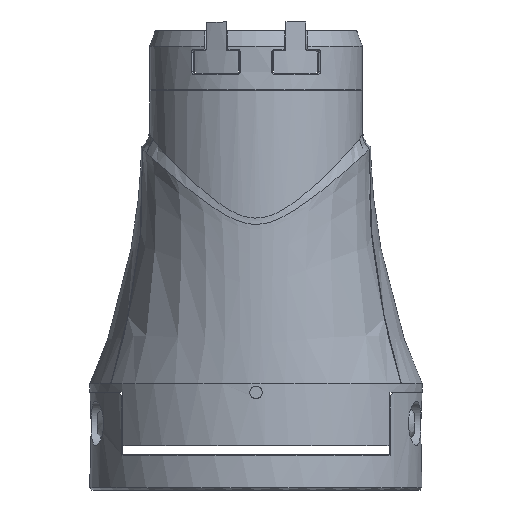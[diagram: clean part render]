
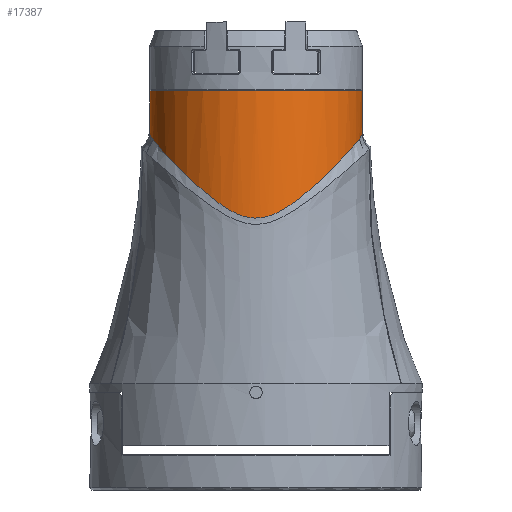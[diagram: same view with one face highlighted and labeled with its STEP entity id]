
A CAD part, left-side view. The second image highlights one B-rep face of the part: STEP entity #17387.
In plain terms, the highlighted cylindrical face has radius 24 mm (diameter 48 mm), a partial arc.
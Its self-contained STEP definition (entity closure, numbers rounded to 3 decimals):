
#174 = CARTESIAN_POINT ( 'NONE',  ( 0., 24., 13.5 ) ) ;
#429 = CARTESIAN_POINT ( 'NONE',  ( -28.632, 1.376, 37.473 ) ) ;
#477 = EDGE_CURVE ( 'NONE', #3084, #20369, #15056, .T. ) ;
#542 = CARTESIAN_POINT ( 'NONE',  ( -12.825, 21.712, 23.94 ) ) ;
#1203 = EDGE_LOOP ( 'NONE', ( #18993, #22518, #13670, #9516, #18954, #23243 ) ) ;
#1477 = CARTESIAN_POINT ( 'NONE',  ( -9.669, -24., 13.578 ) ) ;
#2222 = CARTESIAN_POINT ( 'NONE',  ( -24.399, 9.658, 35.509 ) ) ;
#2487 = CARTESIAN_POINT ( 'NONE',  ( -28.632, -1.376, 37.473 ) ) ;
#3084 = VERTEX_POINT ( 'NONE', #13719 ) ;
#3632 = AXIS2_PLACEMENT_3D ( 'NONE', #14227, #12294, #20196 ) ;
#4076 = DIRECTION ( 'NONE',  ( -1., 0., 0. ) ) ;
#4170 = CARTESIAN_POINT ( 'NONE',  ( -11.468, -22.857, 20.95 ) ) ;
#4439 = CARTESIAN_POINT ( 'NONE',  ( -27.874, 4.004, 37.175 ) ) ;
#4553 = CARTESIAN_POINT ( 'NONE',  ( -9.718, 23.998, 14.035 ) ) ;
#4847 = EDGE_CURVE ( 'NONE', #9471, #12257, #18947, .T. ) ;
#5745 = CARTESIAN_POINT ( 'NONE',  ( 0., 0., 13.5 ) ) ;
#6024 = EDGE_CURVE ( 'NONE', #20369, #22555, #17301, .T. ) ;
#6105 = CARTESIAN_POINT ( 'NONE',  ( -28.331, -2.717, 37.358 ) ) ;
#6232 = CARTESIAN_POINT ( 'NONE',  ( -10.639, 23.499, 18.585 ) ) ;
#6334 = CYLINDRICAL_SURFACE ( 'NONE', #3632, 24. ) ;
#6494 = CARTESIAN_POINT ( 'NONE',  ( -22.779, 11.631, 34.531 ) ) ;
#7150 = CARTESIAN_POINT ( 'NONE',  ( -9.665, -24., 13.539 ) ) ;
#8040 = CARTESIAN_POINT ( 'NONE',  ( -22.779, -11.631, 34.531 ) ) ;
#8174 = VECTOR ( 'NONE', #15207, 1000. ) ;
#8177 = CARTESIAN_POINT ( 'NONE',  ( -9.828, -23.972, 14.872 ) ) ;
#8303 = CARTESIAN_POINT ( 'NONE',  ( -10.639, -23.499, 18.585 ) ) ;
#8417 = CARTESIAN_POINT ( 'NONE',  ( -14.929, -19.799, 27.316 ) ) ;
#8832 = AXIS2_PLACEMENT_3D ( 'NONE', #5745, #4076, #11440 ) ;
#9471 = VERTEX_POINT ( 'NONE', #14661 ) ;
#9516 = ORIENTED_EDGE ( 'NONE', *, *, #12313, .T. ) ;
#10095 = CARTESIAN_POINT ( 'NONE',  ( -27.109, -5.641, 36.853 ) ) ;
#10226 = CARTESIAN_POINT ( 'NONE',  ( -28.738, 0., 37.513 ) ) ;
#10337 = CARTESIAN_POINT ( 'NONE',  ( -28.331, 2.717, 37.358 ) ) ;
#11440 = DIRECTION ( 'NONE',  ( 0., 0., -1. ) ) ;
#11918 = CARTESIAN_POINT ( 'NONE',  ( -17.899, 16.908, 30.719 ) ) ;
#12047 = CARTESIAN_POINT ( 'NONE',  ( -9.673, -24., 13.617 ) ) ;
#12257 = VERTEX_POINT ( 'NONE', #20760 ) ;
#12294 = DIRECTION ( 'NONE',  ( 1., 0., 0. ) ) ;
#12313 = EDGE_CURVE ( 'NONE', #19214, #22555, #18363, .T. ) ;
#13670 = ORIENTED_EDGE ( 'NONE', *, *, #21112, .T. ) ;
#13719 = CARTESIAN_POINT ( 'NONE',  ( -9.673, 24., 13.617 ) ) ;
#14227 = CARTESIAN_POINT ( 'NONE',  ( 14., 0., 13.5 ) ) ;
#14487 = CARTESIAN_POINT ( 'NONE',  ( -10.124, -23.833, 16.537 ) ) ;
#14661 = CARTESIAN_POINT ( 'NONE',  ( -9.673, -24., 13.617 ) ) ;
#14908 = CARTESIAN_POINT ( 'NONE',  ( -9.673, -24., 13.617 ) ) ;
#15056 = B_SPLINE_CURVE_WITH_KNOTS ( 'NONE', 3,
 ( #19622, #16208, #15333, #22037, #19492 ),
 .UNSPECIFIED., .F., .F.,
 ( 4, 1, 4 ),
 ( 0., 0.5, 1. ),
 .UNSPECIFIED. ) ;
#15207 = DIRECTION ( 'NONE',  ( 1., 0., 0. ) ) ;
#15333 = CARTESIAN_POINT ( 'NONE',  ( -9.667, 24., 13.556 ) ) ;
#15921 = CARTESIAN_POINT ( 'NONE',  ( -9.673, 24., 13.617 ) ) ;
#16055 = CARTESIAN_POINT ( 'NONE',  ( -25.948, -7.546, 36.322 ) ) ;
#16159 = FACE_OUTER_BOUND ( 'NONE', #1203, .T. ) ;
#16180 = CARTESIAN_POINT ( 'NONE',  ( -20.593, -14.101, 33.015 ) ) ;
#16208 = CARTESIAN_POINT ( 'NONE',  ( -9.671, 24., 13.596 ) ) ;
#16308 = CARTESIAN_POINT ( 'NONE',  ( -9.828, 23.972, 14.872 ) ) ;
#16557 = EDGE_CURVE ( 'NONE', #9471, #3084, #25279, .T. ) ;
#17171 = LINE ( 'NONE', #17427, #8174 ) ;
#17301 = LINE ( 'NONE', #23099, #17513 ) ;
#17387 = ADVANCED_FACE ( 'NONE', ( #16159 ), #6334, .T. ) ;
#17427 = CARTESIAN_POINT ( 'NONE',  ( 14., -24., 13.5 ) ) ;
#17513 = VECTOR ( 'NONE', #22832, 1000. ) ;
#18016 = CARTESIAN_POINT ( 'NONE',  ( -10.124, 23.833, 16.537 ) ) ;
#18261 = CARTESIAN_POINT ( 'NONE',  ( -14.929, 19.799, 27.316 ) ) ;
#18363 = CIRCLE ( 'NONE', #8832, 24. ) ;
#18681 = CARTESIAN_POINT ( 'NONE',  ( -9.661, -24., 13.5 ) ) ;
#18947 = B_SPLINE_CURVE_WITH_KNOTS ( 'NONE', 3,
 ( #14908, #1477, #7150, #18681 ),
 .UNSPECIFIED., .F., .F.,
 ( 4, 4 ),
 ( 0., 1. ),
 .UNSPECIFIED. ) ;
#18954 = ORIENTED_EDGE ( 'NONE', *, *, #6024, .F. ) ;
#18993 = ORIENTED_EDGE ( 'NONE', *, *, #16557, .F. ) ;
#19214 = VERTEX_POINT ( 'NONE', #25130 ) ;
#19492 = CARTESIAN_POINT ( 'NONE',  ( -9.661, 24., 13.5 ) ) ;
#19622 = CARTESIAN_POINT ( 'NONE',  ( -9.673, 24., 13.617 ) ) ;
#19815 = CARTESIAN_POINT ( 'NONE',  ( -11.468, 22.857, 20.95 ) ) ;
#19947 = CARTESIAN_POINT ( 'NONE',  ( -12.825, -21.712, 23.94 ) ) ;
#20196 = DIRECTION ( 'NONE',  ( 0., 0., -1. ) ) ;
#20221 = CARTESIAN_POINT ( 'NONE',  ( -27.109, 5.641, 36.853 ) ) ;
#20369 = VERTEX_POINT ( 'NONE', #23364 ) ;
#20760 = CARTESIAN_POINT ( 'NONE',  ( -9.661, -24., 13.5 ) ) ;
#21112 = EDGE_CURVE ( 'NONE', #12257, #19214, #17171, .T. ) ;
#21883 = CARTESIAN_POINT ( 'NONE',  ( -17.899, -16.908, 30.719 ) ) ;
#22037 = CARTESIAN_POINT ( 'NONE',  ( -9.663, 24., 13.518 ) ) ;
#22145 = CARTESIAN_POINT ( 'NONE',  ( -27.874, -4.004, 37.175 ) ) ;
#22382 = CARTESIAN_POINT ( 'NONE',  ( -25.948, 7.546, 36.322 ) ) ;
#22518 = ORIENTED_EDGE ( 'NONE', *, *, #4847, .T. ) ;
#22555 = VERTEX_POINT ( 'NONE', #174 ) ;
#22832 = DIRECTION ( 'NONE',  ( 1., 0., 0. ) ) ;
#23099 = CARTESIAN_POINT ( 'NONE',  ( 14., 24., 13.5 ) ) ;
#23243 = ORIENTED_EDGE ( 'NONE', *, *, #477, .F. ) ;
#23364 = CARTESIAN_POINT ( 'NONE',  ( -9.661, 24., 13.5 ) ) ;
#23824 = CARTESIAN_POINT ( 'NONE',  ( -9.718, -23.998, 14.035 ) ) ;
#23958 = CARTESIAN_POINT ( 'NONE',  ( -20.593, 14.101, 33.015 ) ) ;
#24086 = CARTESIAN_POINT ( 'NONE',  ( -24.399, -9.658, 35.509 ) ) ;
#25130 = CARTESIAN_POINT ( 'NONE',  ( 0., -24., 13.5 ) ) ;
#25279 = B_SPLINE_CURVE_WITH_KNOTS ( 'NONE', 3,
 ( #12047, #23824, #8177, #14487, #8303, #4170, #19947, #8417, #21883, #16180, #8040, #24086, #16055, #10095, #22145, #6105, #2487, #10226, #429, #10337, #4439, #20221, #22382, #2222, #6494, #23958, #11918, #18261, #542, #19815, #6232, #18016, #16308, #4553, #15921 ),
 .UNSPECIFIED., .F., .F.,
 ( 4, 1, 1, 1, 1, 1, 1, 1, 1, 1, 1, 1, 1, 1, 1, 1, 1, 1, 1, 1, 1, 1, 1, 1, 1, 1, 1, 1, 1, 1, 1, 1, 4 ),
 ( 0., 0.016, 0.031, 0.063, 0.094, 0.125, 0.188, 0.25, 0.313, 0.344, 0.375, 0.406, 0.438, 0.453, 0.469, 0.484, 0.5, 0.516, 0.531, 0.547, 0.562, 0.594, 0.625, 0.656, 0.687, 0.75, 0.812, 0.875, 0.906, 0.937, 0.969, 0.984, 1. ),
 .UNSPECIFIED. ) ;
